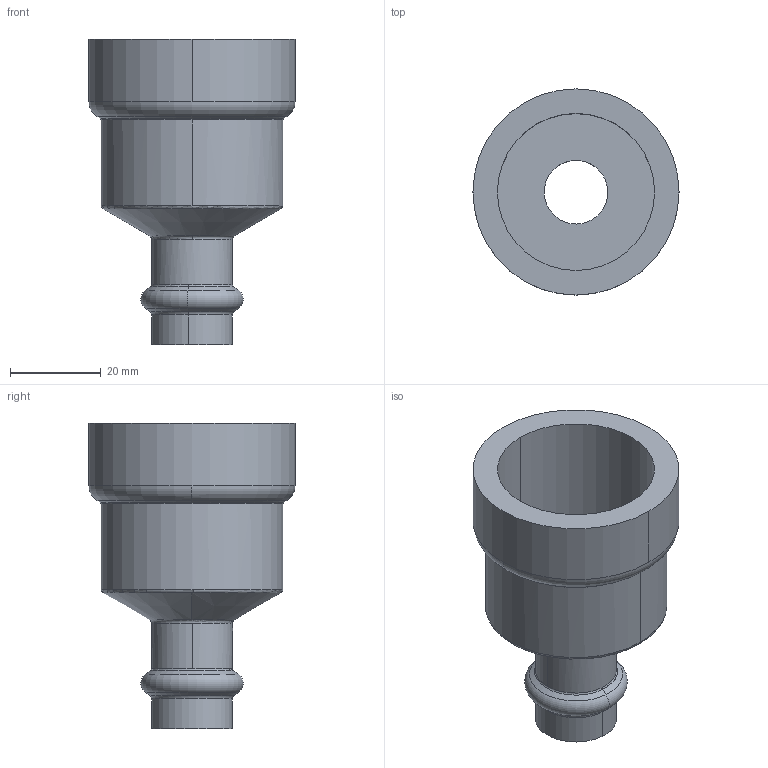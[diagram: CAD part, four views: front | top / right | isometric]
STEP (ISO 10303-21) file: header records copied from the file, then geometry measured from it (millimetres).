
FILE_DESCRIPTION(('Creo Elements/Direct Modeling STEP Export'),'2;1');
FILE_NAME('C9440_1-15.stp','2020-07-20T11:08:25',(''),(''),'PTC Creo Elements/Direct Modeling STEP processor for AP214 (Solid Model)','PTC Creo Elements/Direct Modeling 19.0C 15-Aug-2015 (C) Parametric Technology GmbH','');
FILE_SCHEMA(('AUTOMOTIVE_DESIGN { 1 0 10303 214 1 1 1 1 }'));
Length unit declared in the file: millimetre
Products named in the file (2): C9440_1-15
Assembly tree (1 placements, depth 2):
  C9440_1-15
    C9440_1-15
Bounding box: 45.4 x 45.4 x 67.24 mm (x, y, z)
Volume: 23440.1 mm3; surface area: 14746.2 mm2
Topology: 1 solids, 1 shells, 40 faces, 97 edges, 61 vertices
Faces by surface type: cylinder 14, torus 14, cone 8, plane 4
Entity records: 1062 total; most frequent: ORIENTED_EDGE 194, DIRECTION 178, CARTESIAN_POINT 161, EDGE_CURVE 97, AXIS2_PLACEMENT_3D 78, VERTEX_POINT 61, EDGE_LOOP 44, FACE_OUTER_BOUND 40
